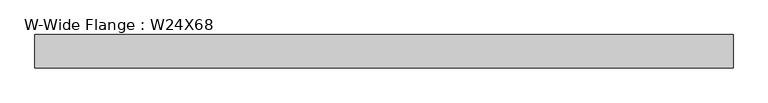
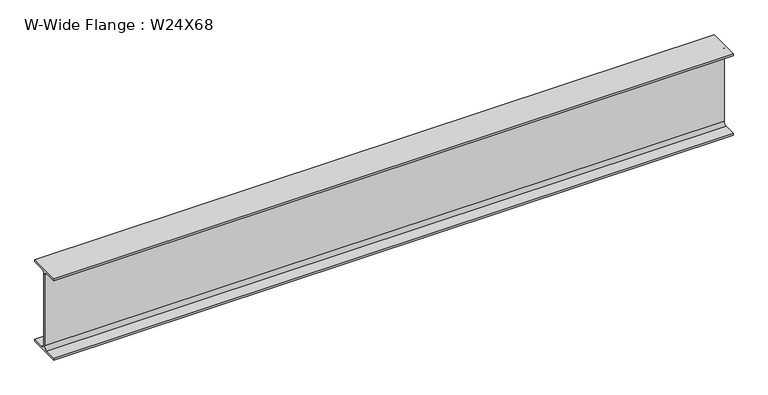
"""IFC4 building model written with IfcOpenShell, lengths in millimetres: beam geometry, W-Wide Flange : W24X68."""

from ifc_helpers import new_model, si_unit, point, frame, frame_2d, origin, place, context, project, spatial, polyline, circle_curve, trimmed, segment, composite_curve, outline, extrude, source, transform, mapped, element, save


def w_wide_flange_w24x68_9aefc99e(model_context):
    return source(origin(), model_context, "Body", "SweptSolid", [
        extrude(outline(composite_curve([segment(polyline([(-113.919, -286.131), (-28.5115, -286.131)]), True, "CONTINUOUS"), segment(trimmed(circle_curve(frame_2d((-28.5115, -262.89)), 23.241), [point((-28.5115, -286.131))], [point((-5.2705, -262.89))], True, "CARTESIAN"), True, "CONTINUOUS"), segment(polyline([(-5.2705, -262.89), (-5.2705, 262.89)]), True, "CONTINUOUS"), segment(trimmed(circle_curve(frame_2d((-28.5115, 262.89)), 23.241), [point((-5.2705, 262.89))], [point((-28.5115, 286.131))], True, "CARTESIAN"), True, "CONTINUOUS"), segment(polyline([(-28.5115, 286.131), (-113.919, 286.131), (-113.919, 300.99), (113.919, 300.99), (113.919, 286.131), (28.5115, 286.131)]), True, "CONTINUOUS"), segment(trimmed(circle_curve(frame_2d((28.5115, 262.89)), 23.241), [point((28.5115, 286.131))], [point((5.2705, 262.89))], True, "CARTESIAN"), True, "CONTINUOUS"), segment(polyline([(5.2705, 262.89), (5.2705, -262.89)]), True, "CONTINUOUS"), segment(trimmed(circle_curve(frame_2d((28.5115, -262.89)), 23.241), [point((5.2705, -262.89))], [point((28.5115, -286.131))], True, "CARTESIAN"), True, "CONTINUOUS"), segment(polyline([(28.5115, -286.131), (113.919, -286.131), (113.919, -300.99), (-113.919, -300.99), (-113.919, -286.131)]), True, "CONTINUOUS")], self_intersect=False)), frame((-2373.63, 0.0, 0.0), z_axis=(1.0, 0.0, 0.0), x_axis=(0.0, 1.0, 0.0)), (0.0, 0.0, 1.0), 4747.26),
    ])


if __name__ == "__main__":
    model = new_model("IFC4")
    model_context = context("Model", 3, world=origin())
    ifc_project = project(units=[si_unit("LENGTHUNIT", "METRE", prefix="MILLI")], contexts=[model_context])
    site = spatial("IfcSite", under=ifc_project)
    building = spatial("IfcBuilding", under=site)
    placement = place(None, origin())
    w_wide_flange_w24x68_shape = w_wide_flange_w24x68_9aefc99e(model_context)
    element("IfcBeam", 1, ObjectType="W-Wide Flange : W24X68", at=placement, inside=building, context=model_context, shape_type="MappedRepresentation", body=[
        mapped(w_wide_flange_w24x68_shape, transform((0.0, 0.0, 0.0), x_axis=(1.0, 0.0, 0.0), y_axis=(0.0, 1.0, 0.0), z_axis=(0.0, 0.0, 1.0))),
    ])
    save(model, "model.ifc")
